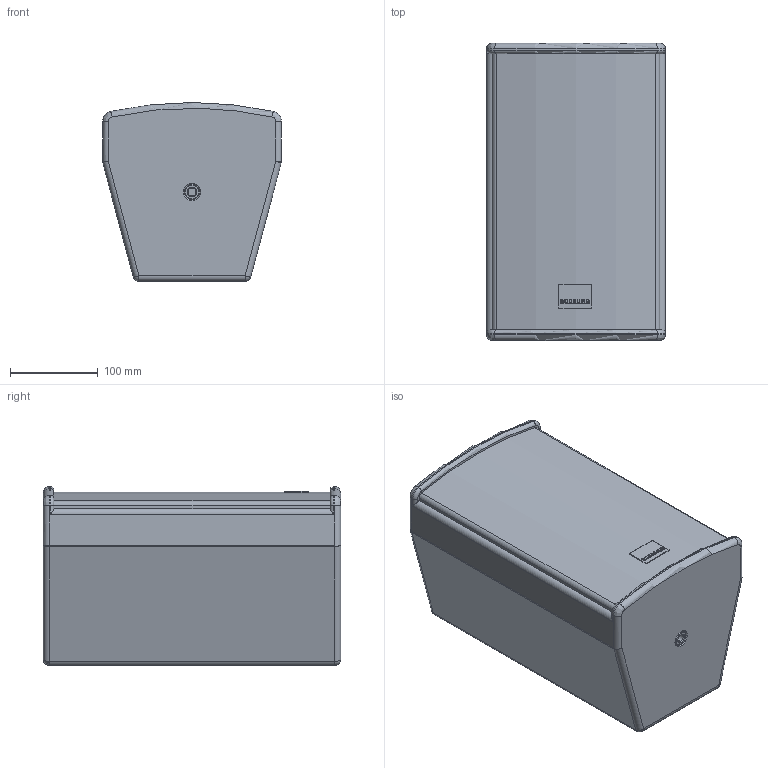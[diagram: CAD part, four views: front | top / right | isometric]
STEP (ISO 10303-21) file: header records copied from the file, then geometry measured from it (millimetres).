
FILE_DESCRIPTION (( 'STEP AP203' ), '1' );
FILE_NAME ('SEEBURG_A1.STEP', '2012-09-27T13:08:18', ( 'Fabian' ), ( '' ), 'SwSTEP 2.0', 'SolidWorks 2009', '' );
FILE_SCHEMA (( 'CONFIG_CONTROL_DESIGN' ));
Length unit declared in the file: millimetre
Products named in the file (2): SEEBURG_A1; A1
Assembly tree (1 placements, depth 2):
  SEEBURG_A1
    A1
Bounding box: 204 x 339 x 204 mm (x, y, z)
Volume: 4639134 mm3; surface area: 692844.3 mm2
Topology: 14 solids, 14 shells, 312 faces, 780 edges, 502 vertices
Faces by surface type: cylinder 135, plane 131, cone 24, sphere 10, torus 8, bspline 4
Entity records: 9686 total; most frequent: CARTESIAN_POINT 1837, DIRECTION 1694, ORIENTED_EDGE 1552, EDGE_CURVE 776, AXIS2_PLACEMENT_3D 625, VERTEX_POINT 500, LINE 444, VECTOR 444
